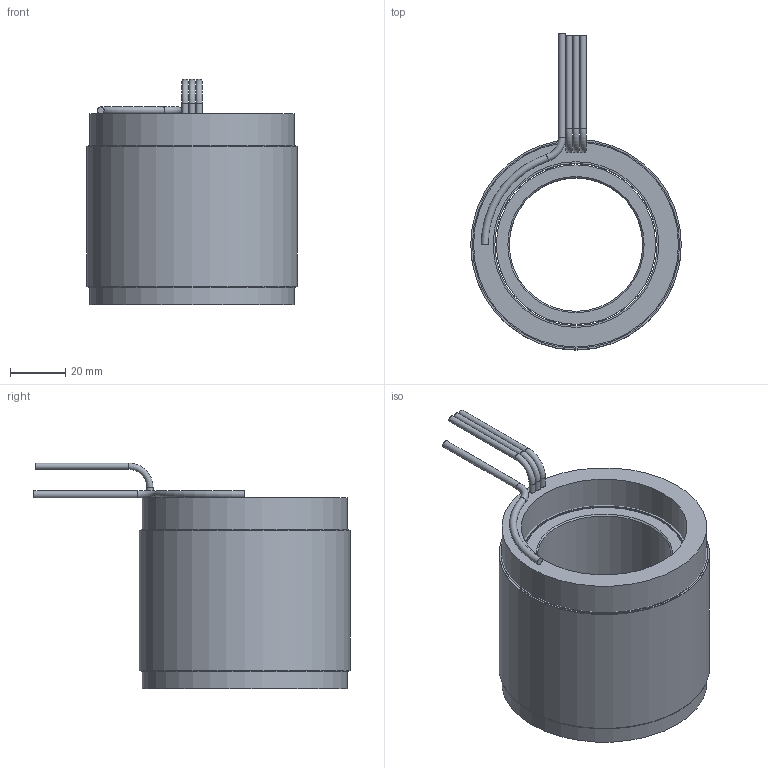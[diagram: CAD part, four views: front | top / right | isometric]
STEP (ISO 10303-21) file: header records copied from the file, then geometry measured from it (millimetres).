
FILE_DESCRIPTION (( 'STEP AP214' ), '1' );
FILE_NAME ('6100392-05.STEP', '2020-12-15T03:02:18', ( '' ), ( '' ), 'SwSTEP 2.0', 'SolidWorks 2016', '' );
FILE_SCHEMA (( 'AUTOMOTIVE_DESIGN' ));
Length unit declared in the file: inch
Products named in the file (10): COMP4500559-XX(COIL)_COMP4500559-05(COIL); 6100392-05; 4150179-XX_4150179-05; 4500559-XX_4500559-05; 4450190-XX_4450190-05; 4400102-00; 4250380-XX_4250380-05; 4600566-00
Assembly tree (10 placements, depth 4):
  6100392-05
    4500559-XX_4500559-05
      4450190-XX_4450190-05
        4450190-XX_4450190-05
        4400102-00
        4400102-00
        4600566-00  x2
      COMP4500559-XX(COIL)_COMP4500559-05(COIL)
    4250380-XX_4250380-05
      4150179-XX_4150179-05
Bounding box: 76.2 x 114.3 x 81.66 mm (x, y, z)
Volume: 239426.5 mm3; surface area: 91968.6 mm2
Topology: 8 solids, 8 shells, 47 faces, 74 edges, 46 vertices
Faces by surface type: cylinder 21, plane 19, torus 5, cone 2
Full cylindrical faces by diameter (mm): 2.286 x6, 2.54 x1, 48.26 x1, 57.658 x1, 58.674 x5, 59.944 x1, 74.168 x1, 74.93 x2, 76.2 x3
Entity records: 1305 total; most frequent: DIRECTION 202, CARTESIAN_POINT 143, AXIS2_PLACEMENT_3D 101, EDGE_LOOP 84, ORIENTED_EDGE 84, FACE_OUTER_BOUND 67, ADVANCED_FACE 43, VERTEX_POINT 42
